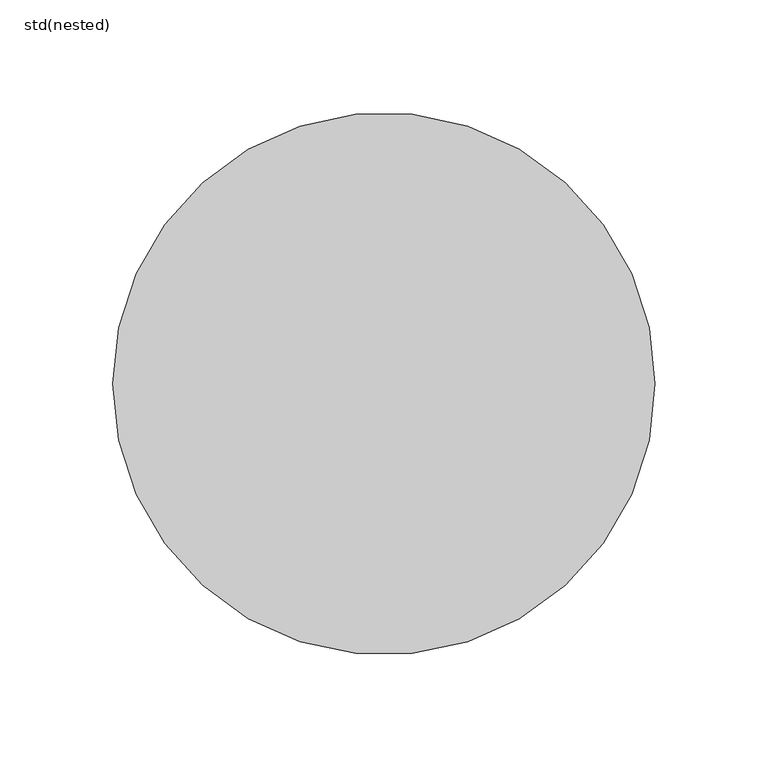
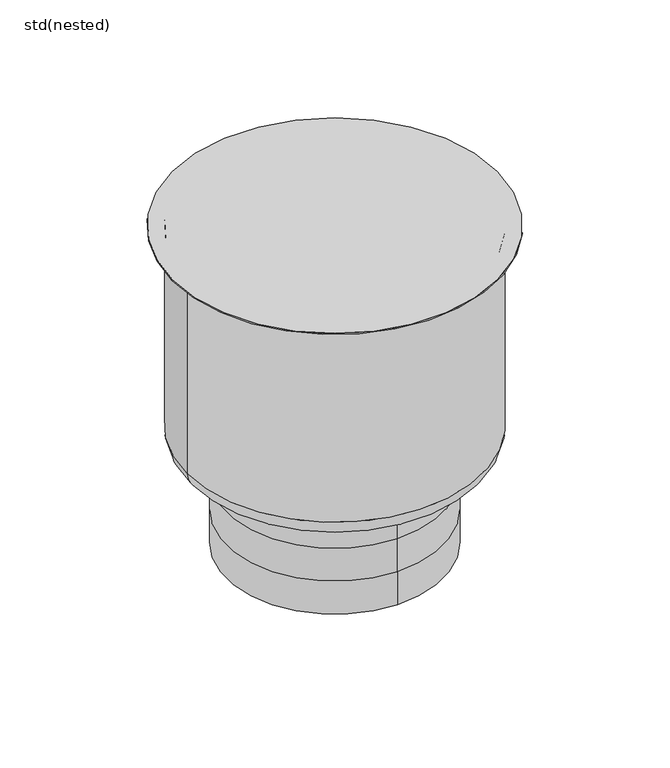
"""IFC4 building model written with IfcOpenShell, lengths in millimetres: sanitary terminal geometry, ZZZ_do not use_PF_ST_WPB_industrial Processes Variant_CR 218_ACO : std(nested)."""

from ifc_helpers import new_model, si_unit, point, frame, origin, origin_with_axes, place, context, project, spatial, circle_curve, ellipse_curve, trimmed, source, transform, mapped, element, save
from ifc_brep_helpers import plane_surface, cylinder_surface, revolved_surface, advanced_brep


def std_nested_f4f34d1d(model_context):
    return source(origin(), model_context, "Body", "AdvancedBrep", [
        advanced_brep(
        [(0.0, -80.0, -247.0), (0.0, 80.0, -247.0), (0.0, -80.0, -221.3333333), (0.0, 80.0, -221.3333333), (0.0, -80.0, -195.6666667), (0.0, 80.0, -195.6666667), (0.0, 80.0, -170.0), (80.0, 0.0, -170.0), (0.0, -80.0, -170.0), (-80.0, 0.0, -170.0), (109.0, 0.0, -155.0), (-109.0, 0.0, -155.0), (-109.0, 0.0, -1.0), (109.0, 0.0, -1.0), (94.0, 0.0, -170.0), (-94.0, 0.0, -170.0), (-120.0, 0.0, -1.0), (120.0, 0.0, -1.0), (-120.0, 0.0, 0.0), (120.0, 0.0, 0.0)],
        [
            (0, 1, circle_curve(frame((0.0, 0.0, -247.0), z_axis=(0.0, 0.0, -1.0), x_axis=(0.0, 1.0, 0.0)), 80.0)),
            (1, 0, circle_curve(frame((0.0, 0.0, -247.0), z_axis=(0.0, 0.0, -1.0), x_axis=(0.0, 1.0, 0.0)), 80.0)),
            (0, 2),
            (2, 3, circle_curve(frame((0.0, 0.0, -221.3333333), z_axis=(0.0, 0.0, -1.0), x_axis=(0.0, 1.0, 0.0)), 80.0)),
            (3, 1),
            (3, 2, circle_curve(frame((0.0, 0.0, -221.3333333), z_axis=(0.0, 0.0, -1.0), x_axis=(0.0, 1.0, 0.0)), 80.0)),
            (4, 2),
            (3, 5),
            (5, 4, circle_curve(frame((0.0, 0.0, -195.6666667), z_axis=(0.0, 0.0, -1.0), x_axis=(1.0, 0.0, 0.0)), 80.0)),
            (4, 5, circle_curve(frame((0.0, 0.0, -195.6666667), z_axis=(0.0, 0.0, -1.0), x_axis=(-1.0, 0.0, 0.0)), 80.0)),
            (5, 6),
            (6, 7, circle_curve(frame((0.0, 0.0, -170.0), z_axis=(0.0, 0.0, -1.0), x_axis=(0.0, 1.0, 0.0)), 80.0)),
            (7, 8, circle_curve(frame((0.0, 0.0, -170.0), z_axis=(0.0, 0.0, -1.0), x_axis=(0.0, 1.0, 0.0)), 80.0)),
            (8, 4),
            (8, 9, circle_curve(frame((0.0, 0.0, -170.0), z_axis=(0.0, 0.0, -1.0), x_axis=(0.0, 1.0, 0.0)), 80.0)),
            (9, 6, circle_curve(frame((0.0, 0.0, -170.0), z_axis=(0.0, 0.0, -1.0), x_axis=(0.0, 1.0, 0.0)), 80.0)),
            (10, 11, circle_curve(frame((0.0, 0.0, -155.0), z_axis=(0.0, 0.0, 1.0), x_axis=(-1.0, 0.0, 0.0)), 109.0)),
            (11, 12),
            (12, 13, circle_curve(frame((0.0, 0.0, -1.0), z_axis=(0.0, 0.0, -1.0), x_axis=(-1.0, 0.0, 0.0)), 109.0)),
            (13, 10),
            (11, 10, circle_curve(frame((0.0, 0.0, -155.0), z_axis=(0.0, 0.0, 1.0), x_axis=(-1.0, 0.0, 0.0)), 109.0)),
            (13, 12, circle_curve(frame((0.0, 0.0, -1.0), z_axis=(0.0, 0.0, -1.0), x_axis=(-1.0, 0.0, 0.0)), 109.0)),
            (10, 14, circle_curve(frame((94.0, 0.0, -155.0), z_axis=(0.0, 1.0, 0.0), x_axis=(-1.0, 0.0, 0.0)), 15.0)),
            (14, 15, circle_curve(frame((0.0, 0.0, -170.0), z_axis=(0.0, 0.0, 1.0), x_axis=(-1.0, 0.0, 0.0)), 94.0)),
            (15, 11, circle_curve(frame((-94.0, 0.0, -155.0), z_axis=(0.0, 1.0, 0.0), x_axis=(1.0, 0.0, 0.0)), 15.0)),
            (15, 14, circle_curve(frame((0.0, 0.0, -170.0), z_axis=(0.0, 0.0, 1.0), x_axis=(-1.0, 0.0, 0.0)), 94.0)),
            (14, 7),
            (9, 15),
            (16, 17, circle_curve(frame((0.0, 0.0, -1.0), z_axis=(0.0, 0.0, -1.0), x_axis=(1.0, 0.0, 0.0)), 120.0)),
            (17, 16, circle_curve(frame((0.0, 0.0, -1.0), z_axis=(0.0, 0.0, -1.0), x_axis=(1.0, 0.0, 0.0)), 120.0)),
            (18, 19, circle_curve(origin_with_axes(), 120.0)),
            (19, 18, circle_curve(origin_with_axes(), 120.0)),
            (17, 19),
            (18, 16),
        ],
        [
            plane_surface(frame((0.0, 80.0, -247.0), z_axis=(0.0, 0.0, -1.0), x_axis=(1.0, 0.0, 0.0))),
            cylinder_surface(frame((0.0, 0.0, -221.3333333), z_axis=(0.0, 0.0, -1.0), x_axis=(0.0, 1.0, 0.0)), 80.0),
            cylinder_surface(frame((0.0, 0.0, -195.6666667), z_axis=(0.0, 0.0, -1.0), x_axis=(1.0, 0.0, 0.0)), 80.0),
            cylinder_surface(frame((0.0, 0.0, -195.6666667), z_axis=(0.0, 0.0, -1.0), x_axis=(-1.0, 0.0, 0.0)), 80.0),
            cylinder_surface(frame((0.0, 0.0, -170.0), z_axis=(0.0, 0.0, -1.0), x_axis=(0.0, 1.0, 0.0)), 80.0),
            cylinder_surface(frame((0.0, 0.0, 60.0), z_axis=(0.0, 0.0, -1.0), x_axis=(-1.0, 0.0, 0.0)), 109.0),
            revolved_surface(trimmed(ellipse_curve(frame((-94.0, 0.0, -155.0), z_axis=(0.0, -1.0, 0.0), x_axis=(1.0, 0.0, 0.0)), 15.0, 15.0), [point((-109.0, 0.0, -155.0))], [point((-94.0, 0.0, -170.0))], True, "CARTESIAN"), (0.0, 0.0, 60.0), (0.0, 0.0, -1.0)),
            plane_surface(frame((0.0, 0.0, -170.0), z_axis=(0.0, 0.0, -1.0), x_axis=(-1.0, 0.0, 0.0))),
            plane_surface(frame((120.0, 0.0, -1.0), z_axis=(0.0, 0.0, -1.0), x_axis=(0.0, -1.0, 0.0))),
            plane_surface(frame((120.0, 0.0, 0.0), z_axis=(0.0, 0.0, 1.0), x_axis=(0.0, 1.0, 0.0))),
            cylinder_surface(frame((0.0, 0.0, -1.0), z_axis=(0.0, 0.0, 1.0), x_axis=(1.0, 0.0, 0.0)), 120.0),
        ],
        [
            (0, [[1, 2]]),
            (1, [[-1, 3, 4, 5]]),
            (1, [[-2, -5, 6, -3]]),
            (2, [[7, -6, 8, 9]]),
            (3, [[-7, 10, -8, -4]]),
            (4, [[11, 12, 13, 14, -9]]),
            (4, [[-11, -10, -14, 15, 16]]),
            (5, [[17, 18, 19, 20]]),
            (5, [[-18, 21, -20, 22]]),
            (6, [[-17, 23, 24, 25]]),
            (6, [[-21, -25, 26, -23]]),
            (7, [[-24, 27, -12, -16, 28]]),
            (7, [[-26, -28, -15, -13, -27]]),
            (8, [[29, 30], [-19, -22]]),
            (9, [[31, 32]]),
            (10, [[-30, 33, -31, 34]]),
            (10, [[-29, -34, -32, -33]]),
        ],
    ),
    ])


if __name__ == "__main__":
    model = new_model("IFC4")
    model_context = context("Model", 3, world=origin())
    ifc_project = project(units=[si_unit("LENGTHUNIT", "METRE", prefix="MILLI")], contexts=[model_context])
    site = spatial("IfcSite", under=ifc_project)
    building = spatial("IfcBuilding", under=site)
    placement = place(None, origin())
    std_nested_shape = std_nested_f4f34d1d(model_context)
    element("IfcSanitaryTerminal", 1, ObjectType="ZZZ_do not use_PF_ST_WPB_industrial Processes Variant_CR 218_ACO : std(nested)", at=placement, inside=building, context=model_context, shape_type="MappedRepresentation", body=[
        mapped(std_nested_shape, transform((0.0, 0.0, 0.0), x_axis=(1.0, 0.0, 0.0), y_axis=(0.0, 1.0, 0.0), z_axis=(0.0, 0.0, 1.0))),
    ])
    save(model, "model.ifc")
